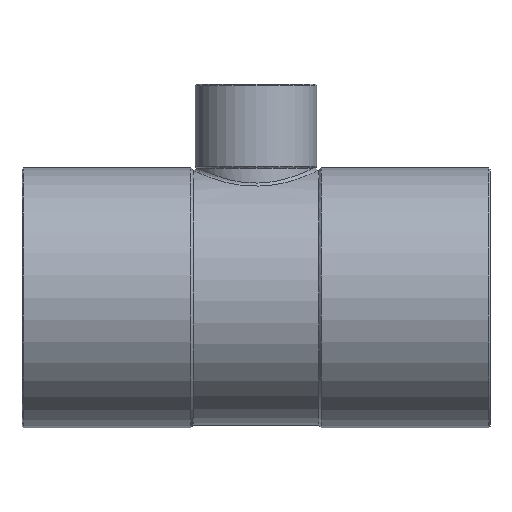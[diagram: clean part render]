
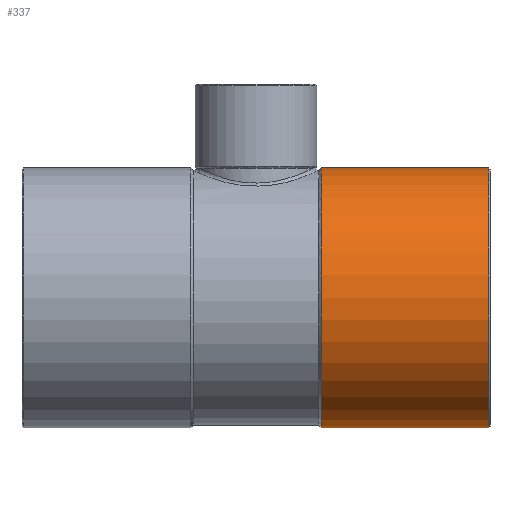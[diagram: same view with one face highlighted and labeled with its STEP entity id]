
A CAD part, top view. The second image highlights one B-rep face of the part: STEP entity #337.
In plain terms, the highlighted cylindrical face has radius 18.875 mm (diameter 37.75 mm), a partial arc.
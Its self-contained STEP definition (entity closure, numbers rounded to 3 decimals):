
#296=CARTESIAN_POINT('',(21.731,0.0,0.0));
#297=DIRECTION('',(1.0,0.0,0.0));
#298=DIRECTION('',(0.0,1.0,0.0));
#299=AXIS2_PLACEMENT_3D('',#296,#297,#298);
#300=CYLINDRICAL_SURFACE('',#299,18.875);
#301=CARTESIAN_POINT('',(9.462,18.875,0.0));
#302=VERTEX_POINT('',#301);
#303=CARTESIAN_POINT('',(33.8,18.875,0.));
#304=VERTEX_POINT('',#303);
#305=CARTESIAN_POINT('',(9.462,18.875,0.0));
#306=DIRECTION('',(1.0,0.0,0.0));
#307=VECTOR('',#306,24.338);
#308=LINE('',#305,#307);
#309=EDGE_CURVE('',#302,#304,#308,.T.);
#310=ORIENTED_EDGE('',*,*,#309,.F.);
#311=CARTESIAN_POINT('',(9.462,-18.875,0.));
#312=VERTEX_POINT('',#311);
#313=CARTESIAN_POINT('',(9.462,0.0,0.0));
#314=DIRECTION('',(1.0,0.0,0.0));
#315=DIRECTION('',(0.0,1.0,0.0));
#316=AXIS2_PLACEMENT_3D('',#313,#314,#315);
#317=CIRCLE('',#316,18.875);
#318=EDGE_CURVE('',#302,#312,#317,.T.);
#319=ORIENTED_EDGE('',*,*,#318,.T.);
#320=CARTESIAN_POINT('',(33.8,-18.875,0.));
#321=VERTEX_POINT('',#320);
#322=CARTESIAN_POINT('',(33.8,-18.875,0.));
#323=DIRECTION('',(-1.0,0.0,0.0));
#324=VECTOR('',#323,24.338);
#325=LINE('',#322,#324);
#326=EDGE_CURVE('',#321,#312,#325,.T.);
#327=ORIENTED_EDGE('',*,*,#326,.F.);
#328=CARTESIAN_POINT('',(33.8,0.0,0.0));
#329=DIRECTION('',(1.0,0.0,0.0));
#330=DIRECTION('',(0.0,-1.0,0.0));
#331=AXIS2_PLACEMENT_3D('',#328,#329,#330);
#332=CIRCLE('',#331,18.875);
#333=EDGE_CURVE('',#304,#321,#332,.T.);
#334=ORIENTED_EDGE('',*,*,#333,.F.);
#335=EDGE_LOOP('',(#310,#319,#327,#334));
#336=FACE_OUTER_BOUND('',#335,.T.);
#337=ADVANCED_FACE('',(#336),#300,.T.);
